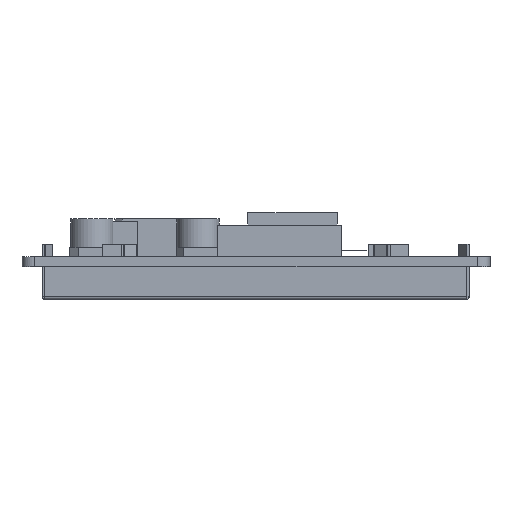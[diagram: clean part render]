
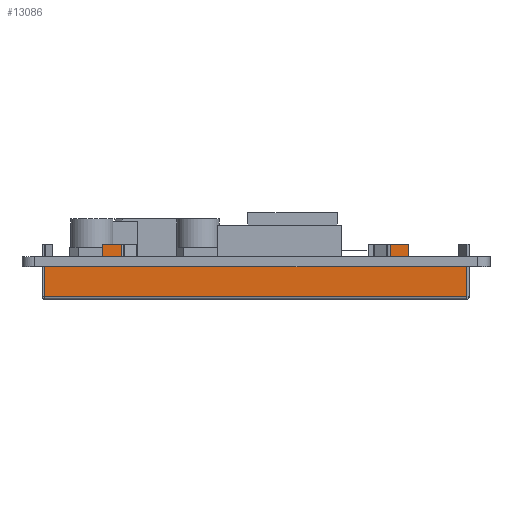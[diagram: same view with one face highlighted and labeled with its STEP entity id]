
A CAD part, left-side view. The second image highlights one B-rep face of the part: STEP entity #13086.
In plain terms, the highlighted planar face has unit normal (-1, 0, 0).
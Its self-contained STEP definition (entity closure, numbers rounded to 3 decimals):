
#5226=LINE('',#46639,#8846);
#5232=LINE('',#46653,#8852);
#5234=LINE('',#46657,#8854);
#5235=LINE('',#46660,#8855);
#5236=LINE('',#46662,#8856);
#5237=LINE('',#46664,#8857);
#5238=LINE('',#46666,#8858);
#5239=LINE('',#46668,#8859);
#5240=LINE('',#46669,#8860);
#5241=LINE('',#46671,#8861);
#5242=LINE('',#46673,#8862);
#5243=LINE('',#46675,#8863);
#5244=LINE('',#46677,#8864);
#5245=LINE('',#46678,#8865);
#5246=LINE('',#46680,#8866);
#5247=LINE('',#46682,#8867);
#8846=VECTOR('',#38195,1.);
#8852=VECTOR('',#38203,1.);
#8854=VECTOR('',#38207,1.);
#8855=VECTOR('',#38208,1.);
#8856=VECTOR('',#38209,1.);
#8857=VECTOR('',#38210,1.);
#8858=VECTOR('',#38211,1.);
#8859=VECTOR('',#38212,1.);
#8860=VECTOR('',#38213,1.);
#8861=VECTOR('',#38214,1.);
#8862=VECTOR('',#38215,1.);
#8863=VECTOR('',#38216,1.);
#8864=VECTOR('',#38217,1.);
#8865=VECTOR('',#38218,1.);
#8866=VECTOR('',#38219,1.);
#8867=VECTOR('',#38220,1.);
#10308=PLANE('',#31669);
#11677=FACE_OUTER_BOUND('',#14822,.T.);
#13086=ADVANCED_FACE('',(#11677),#10308,.F.);
#14822=EDGE_LOOP('',(#22170,#22171,#22172,#22173,#22174,#22175,#22176,#22177,
#22178,#22179,#22180,#22181,#22182,#22183,#22184,#22185));
#22170=ORIENTED_EDGE('',*,*,#29338,.T.);
#22171=ORIENTED_EDGE('',*,*,#29339,.F.);
#22172=ORIENTED_EDGE('',*,*,#29340,.F.);
#22173=ORIENTED_EDGE('',*,*,#29341,.T.);
#22174=ORIENTED_EDGE('',*,*,#29342,.T.);
#22175=ORIENTED_EDGE('',*,*,#29343,.T.);
#22176=ORIENTED_EDGE('',*,*,#29336,.T.);
#22177=ORIENTED_EDGE('',*,*,#29344,.F.);
#22178=ORIENTED_EDGE('',*,*,#29345,.T.);
#22179=ORIENTED_EDGE('',*,*,#29346,.F.);
#22180=ORIENTED_EDGE('',*,*,#29347,.F.);
#22181=ORIENTED_EDGE('',*,*,#29348,.T.);
#22182=ORIENTED_EDGE('',*,*,#29330,.T.);
#22183=ORIENTED_EDGE('',*,*,#29349,.F.);
#22184=ORIENTED_EDGE('',*,*,#29350,.F.);
#22185=ORIENTED_EDGE('',*,*,#29351,.T.);
#25448=VERTEX_POINT('',#46640);
#25449=VERTEX_POINT('',#46641);
#25454=VERTEX_POINT('',#46652);
#25455=VERTEX_POINT('',#46654);
#25456=VERTEX_POINT('',#46658);
#25457=VERTEX_POINT('',#46659);
#25458=VERTEX_POINT('',#46661);
#25459=VERTEX_POINT('',#46663);
#25460=VERTEX_POINT('',#46665);
#25461=VERTEX_POINT('',#46667);
#25462=VERTEX_POINT('',#46670);
#25463=VERTEX_POINT('',#46672);
#25464=VERTEX_POINT('',#46674);
#25465=VERTEX_POINT('',#46676);
#25466=VERTEX_POINT('',#46679);
#25467=VERTEX_POINT('',#46681);
#29330=EDGE_CURVE('',#25448,#25449,#5226,.T.);
#29336=EDGE_CURVE('',#25455,#25454,#5232,.T.);
#29338=EDGE_CURVE('',#25456,#25457,#5234,.T.);
#29339=EDGE_CURVE('',#25458,#25457,#5235,.T.);
#29340=EDGE_CURVE('',#25459,#25458,#5236,.T.);
#29341=EDGE_CURVE('',#25459,#25460,#5237,.T.);
#29342=EDGE_CURVE('',#25460,#25461,#5238,.T.);
#29343=EDGE_CURVE('',#25461,#25455,#5239,.T.);
#29344=EDGE_CURVE('',#25462,#25454,#5240,.T.);
#29345=EDGE_CURVE('',#25462,#25463,#5241,.T.);
#29346=EDGE_CURVE('',#25464,#25463,#5242,.T.);
#29347=EDGE_CURVE('',#25465,#25464,#5243,.T.);
#29348=EDGE_CURVE('',#25465,#25448,#5244,.T.);
#29349=EDGE_CURVE('',#25466,#25449,#5245,.T.);
#29350=EDGE_CURVE('',#25467,#25466,#5246,.T.);
#29351=EDGE_CURVE('',#25467,#25456,#5247,.T.);
#31669=AXIS2_PLACEMENT_3D('',#46683,#38221,#38222);
#38195=DIRECTION('',(0.,1.,0.));
#38203=DIRECTION('',(0.,1.,0.));
#38207=DIRECTION('',(0.,1.,0.));
#38208=DIRECTION('',(0.,0.,-1.));
#38209=DIRECTION('',(0.,-1.,0.));
#38210=DIRECTION('',(0.,0.,-1.));
#38211=DIRECTION('',(0.,1.,0.));
#38212=DIRECTION('',(0.,0.,-1.));
#38213=DIRECTION('',(0.,0.,-1.));
#38214=DIRECTION('',(0.,-1.,0.));
#38215=DIRECTION('',(0.,0.,-1.));
#38216=DIRECTION('',(0.,-1.,0.));
#38217=DIRECTION('',(0.,0.,-1.));
#38218=DIRECTION('',(0.,0.,1.));
#38219=DIRECTION('',(0.,1.,0.));
#38220=DIRECTION('',(0.,0.,1.));
#38221=DIRECTION('',(1.,0.,0.));
#38222=DIRECTION('',(0.,-1.,0.));
#46639=CARTESIAN_POINT('',(67.65,-14.395,-1.6));
#46640=CARTESIAN_POINT('',(67.65,43.765,-1.6));
#46641=CARTESIAN_POINT('',(67.65,53.005,-1.6));
#46652=CARTESIAN_POINT('',(67.65,40.765,-1.6));
#46653=CARTESIAN_POINT('',(67.65,-14.395,-1.6));
#46654=CARTESIAN_POINT('',(67.65,-2.155,-1.6));
#46657=CARTESIAN_POINT('',(67.65,-14.395,-1.6));
#46658=CARTESIAN_POINT('',(67.65,-14.395,-1.6));
#46659=CARTESIAN_POINT('',(67.65,-5.155,-1.6));
#46660=CARTESIAN_POINT('',(67.65,-5.155,0.));
#46661=CARTESIAN_POINT('',(67.65,-5.155,2.));
#46662=CARTESIAN_POINT('',(67.65,-2.19,2.));
#46663=CARTESIAN_POINT('',(67.65,-2.19,2.));
#46664=CARTESIAN_POINT('',(67.65,-2.19,2.));
#46665=CARTESIAN_POINT('',(67.65,-2.19,0.));
#46666=CARTESIAN_POINT('',(67.65,-5.155,0.));
#46667=CARTESIAN_POINT('',(67.65,-2.155,0.));
#46668=CARTESIAN_POINT('',(67.65,-2.155,0.));
#46669=CARTESIAN_POINT('',(67.65,40.765,0.));
#46670=CARTESIAN_POINT('',(67.65,40.765,0.));
#46671=CARTESIAN_POINT('',(67.65,43.765,0.));
#46672=CARTESIAN_POINT('',(67.65,40.754,0.));
#46673=CARTESIAN_POINT('',(67.65,40.754,2.));
#46674=CARTESIAN_POINT('',(67.65,40.754,2.));
#46675=CARTESIAN_POINT('',(67.65,43.765,2.));
#46676=CARTESIAN_POINT('',(67.65,43.765,2.));
#46677=CARTESIAN_POINT('',(67.65,43.765,0.));
#46678=CARTESIAN_POINT('',(67.65,53.005,-6.4));
#46679=CARTESIAN_POINT('',(67.65,53.005,-6.4));
#46680=CARTESIAN_POINT('',(67.65,-14.395,-6.4));
#46681=CARTESIAN_POINT('',(67.65,-14.395,-6.4));
#46682=CARTESIAN_POINT('',(67.65,-14.395,-6.4));
#46683=CARTESIAN_POINT('',(67.65,-14.395,-6.4));
